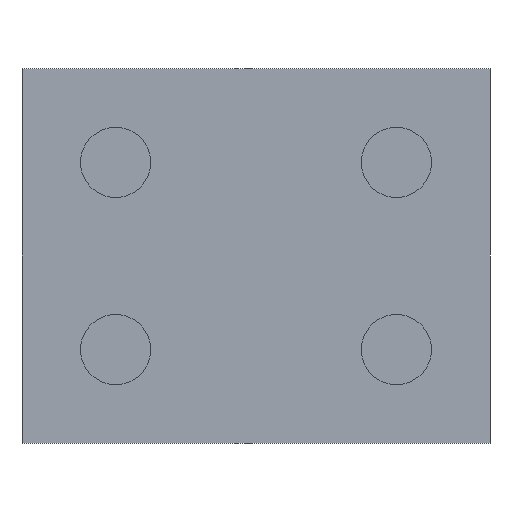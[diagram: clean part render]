
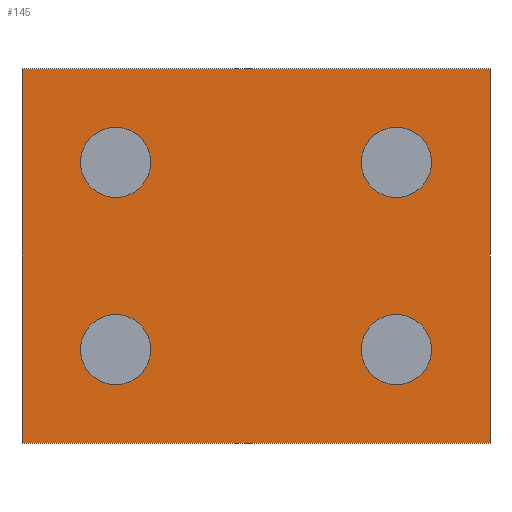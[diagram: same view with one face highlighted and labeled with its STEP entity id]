
A CAD part, left-side view. The second image highlights one B-rep face of the part: STEP entity #145.
In plain terms, the highlighted planar face has unit normal (-1, 0, 0).
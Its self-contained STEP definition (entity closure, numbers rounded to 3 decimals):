
#145=ADVANCED_FACE('',(#286,#287,#288,#289,#290),#291,.T.);
#286=FACE_OUTER_BOUND('',#421,.T.);
#287=FACE_BOUND('',#422,.T.);
#288=FACE_BOUND('',#423,.T.);
#289=FACE_BOUND('',#424,.T.);
#290=FACE_BOUND('',#425,.T.);
#291=PLANE('',#426);
#421=EDGE_LOOP('',(#760,#761,#762,#763));
#422=EDGE_LOOP('',(#764,#765));
#423=EDGE_LOOP('',(#766,#767));
#424=EDGE_LOOP('',(#768,#769));
#425=EDGE_LOOP('',(#770,#771));
#426=AXIS2_PLACEMENT_3D('',#772,#773,#774);
#760=ORIENTED_EDGE('',*,*,#781,.T.);
#761=ORIENTED_EDGE('',*,*,#855,.F.);
#762=ORIENTED_EDGE('',*,*,#896,.T.);
#763=ORIENTED_EDGE('',*,*,#889,.T.);
#764=ORIENTED_EDGE('',*,*,#872,.T.);
#765=ORIENTED_EDGE('',*,*,#847,.T.);
#766=ORIENTED_EDGE('',*,*,#811,.T.);
#767=ORIENTED_EDGE('',*,*,#893,.T.);
#768=ORIENTED_EDGE('',*,*,#878,.T.);
#769=ORIENTED_EDGE('',*,*,#839,.T.);
#770=ORIENTED_EDGE('',*,*,#779,.T.);
#771=ORIENTED_EDGE('',*,*,#903,.T.);
#772=CARTESIAN_POINT('',(-5.,140.0,-40.0));
#773=DIRECTION('',(-1.0,0.,0.0));
#774=DIRECTION('',(0.,-1.0,0.0));
#779=EDGE_CURVE('',#911,#915,#917,.T.);
#781=EDGE_CURVE('',#919,#920,#921,.T.);
#811=EDGE_CURVE('',#969,#973,#975,.T.);
#839=EDGE_CURVE('',#1018,#1016,#1019,.T.);
#847=EDGE_CURVE('',#1030,#1028,#1031,.T.);
#855=EDGE_CURVE('',#1040,#920,#1042,.T.);
#872=EDGE_CURVE('',#1028,#1030,#1065,.T.);
#878=EDGE_CURVE('',#1016,#1018,#1071,.T.);
#889=EDGE_CURVE('',#1085,#919,#1086,.T.);
#893=EDGE_CURVE('',#973,#969,#1090,.T.);
#896=EDGE_CURVE('',#1040,#1085,#1093,.T.);
#903=EDGE_CURVE('',#915,#911,#1100,.T.);
#911=VERTEX_POINT('',#1108);
#915=VERTEX_POINT('',#1113);
#917=CIRCLE('',#1116,7.5);
#919=VERTEX_POINT('',#1118);
#920=VERTEX_POINT('',#1119);
#921=LINE('',#1120,#1121);
#969=VERTEX_POINT('',#1180);
#973=VERTEX_POINT('',#1185);
#975=CIRCLE('',#1188,7.5);
#1016=VERTEX_POINT('',#1237);
#1018=VERTEX_POINT('',#1240);
#1019=CIRCLE('',#1241,7.5);
#1028=VERTEX_POINT('',#1251);
#1030=VERTEX_POINT('',#1254);
#1031=CIRCLE('',#1255,7.5);
#1040=VERTEX_POINT('',#1266);
#1042=LINE('',#1269,#1270);
#1065=CIRCLE('',#1301,7.5);
#1071=CIRCLE('',#1308,7.5);
#1085=VERTEX_POINT('',#1327);
#1086=LINE('',#1328,#1329);
#1090=CIRCLE('',#1334,7.5);
#1093=LINE('',#1337,#1338);
#1100=CIRCLE('',#1347,7.5);
#1108=CARTESIAN_POINT('',(-5.,170.0,12.5));
#1113=CARTESIAN_POINT('',(-5.,170.0,27.5));
#1116=AXIS2_PLACEMENT_3D('',#1358,#1359,#1360);
#1118=CARTESIAN_POINT('',(-5.,90.0,40.0));
#1119=CARTESIAN_POINT('',(-5.,190.0,40.0));
#1120=CARTESIAN_POINT('',(-5.,190.0,40.0));
#1121=VECTOR('',#1361,1.0);
#1180=CARTESIAN_POINT('',(-5.,170.0,-27.5));
#1185=CARTESIAN_POINT('',(-5.,170.0,-12.5));
#1188=AXIS2_PLACEMENT_3D('',#1408,#1409,#1410);
#1237=CARTESIAN_POINT('',(-5.,110.0,12.5));
#1240=CARTESIAN_POINT('',(-5.,110.0,27.5));
#1241=AXIS2_PLACEMENT_3D('',#1450,#1451,#1452);
#1251=CARTESIAN_POINT('',(-5.,110.0,-27.5));
#1254=CARTESIAN_POINT('',(-5.,110.0,-12.5));
#1255=AXIS2_PLACEMENT_3D('',#1464,#1465,#1466);
#1266=CARTESIAN_POINT('',(-5.,190.0,-40.0));
#1269=CARTESIAN_POINT('',(-5.,190.0,-40.0));
#1270=VECTOR('',#1476,1.0);
#1301=AXIS2_PLACEMENT_3D('',#1500,#1501,#1502);
#1308=AXIS2_PLACEMENT_3D('',#1507,#1508,#1509);
#1327=CARTESIAN_POINT('',(-5.,90.0,-40.0));
#1328=CARTESIAN_POINT('',(-5.,90.0,-40.0));
#1329=VECTOR('',#1518,1.0);
#1334=AXIS2_PLACEMENT_3D('',#1520,#1521,#1522);
#1337=CARTESIAN_POINT('',(-5.,190.0,-40.0));
#1338=VECTOR('',#1523,1.0);
#1347=AXIS2_PLACEMENT_3D('',#1526,#1527,#1528);
#1358=CARTESIAN_POINT('',(-5.,170.0,20.));
#1359=DIRECTION('',(1.0,0.,0.));
#1360=DIRECTION('',(0.0,0.,-1.0));
#1361=DIRECTION('',(0.,1.0,0.0));
#1408=CARTESIAN_POINT('',(-5.,170.0,-20.));
#1409=DIRECTION('',(1.0,0.,0.));
#1410=DIRECTION('',(0.0,0.,-1.0));
#1450=CARTESIAN_POINT('',(-5.,110.0,20.));
#1451=DIRECTION('',(1.0,0.,0.));
#1452=DIRECTION('',(0.0,0.,-1.0));
#1464=CARTESIAN_POINT('',(-5.,110.0,-20.));
#1465=DIRECTION('',(1.0,0.,0.));
#1466=DIRECTION('',(0.0,0.,-1.0));
#1476=DIRECTION('',(0.0,0.0,1.0));
#1500=CARTESIAN_POINT('',(-5.,110.0,-20.));
#1501=DIRECTION('',(1.0,0.,0.));
#1502=DIRECTION('',(0.0,0.,-1.0));
#1507=CARTESIAN_POINT('',(-5.,110.0,20.));
#1508=DIRECTION('',(1.0,0.,0.));
#1509=DIRECTION('',(0.0,0.,-1.0));
#1518=DIRECTION('',(0.0,0.0,1.0));
#1520=CARTESIAN_POINT('',(-5.,170.0,-20.));
#1521=DIRECTION('',(1.0,0.,0.));
#1522=DIRECTION('',(0.0,0.,-1.0));
#1523=DIRECTION('',(0.,-1.0,0.0));
#1526=CARTESIAN_POINT('',(-5.,170.0,20.));
#1527=DIRECTION('',(1.0,0.,0.));
#1528=DIRECTION('',(0.0,0.,-1.0));
